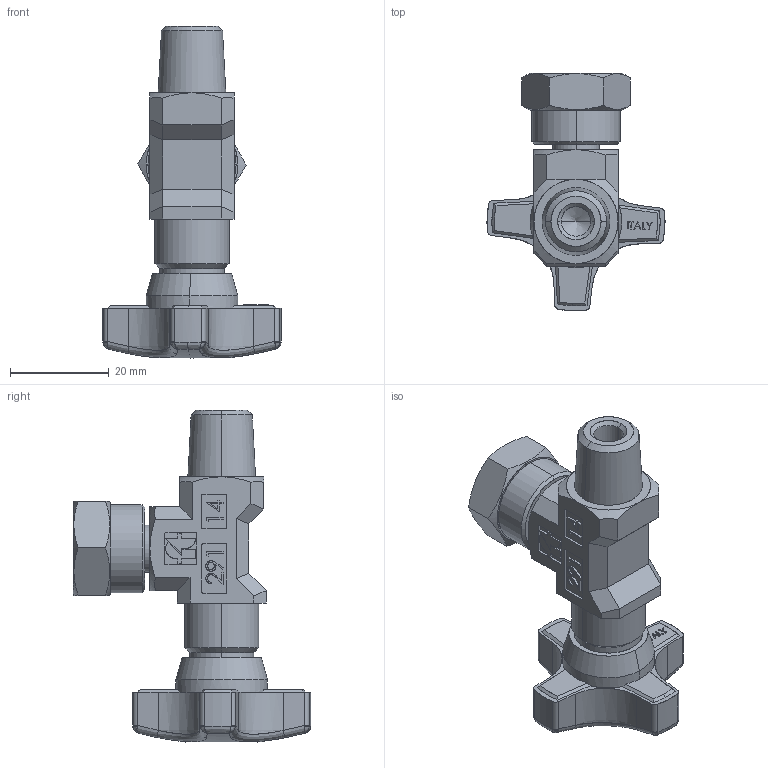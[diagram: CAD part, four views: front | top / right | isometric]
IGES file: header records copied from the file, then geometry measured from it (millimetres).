
Start section: SolidWorks IGES file using analytic representation for surfaces
Global section: file name: C:\Disegni3D\Tognella\Catalogo3D\FT291\FT291-14\FileIges\FT291-14.IGS; native system: SolidWorks 2006 by SolidWorks Corporation; preprocessor: SolidWorks 2006 by SolidWorks Corporation; author: Administrator; date: 061229.152514; units: millimetre
Bounding box: 36 x 48 x 67.08 mm (x, y, z)
Surface area: 9499 mm2 (no closed solid volume)
Topology: 0 solids, 0 shells, 490 faces, 4362 edges, 4352 vertices
Faces by surface type: bspline 357, revolution 133
